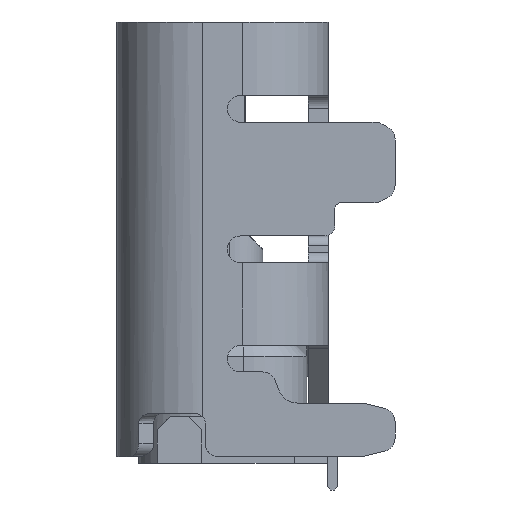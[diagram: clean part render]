
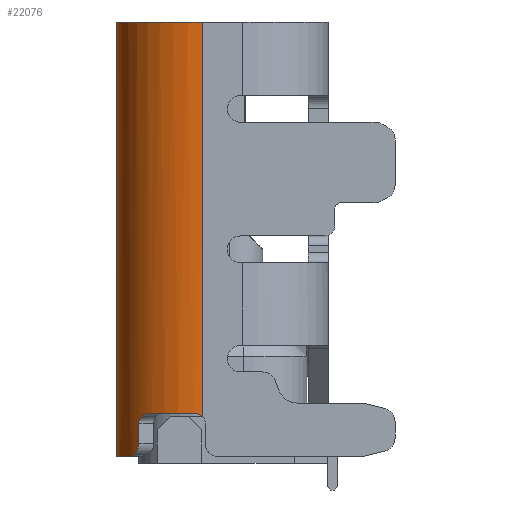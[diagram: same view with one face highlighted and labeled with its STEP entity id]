
A CAD part, left-side view. The second image highlights one B-rep face of the part: STEP entity #22076.
In plain terms, the highlighted cylindrical face has radius 1.28 mm (diameter 2.56 mm), a partial arc.
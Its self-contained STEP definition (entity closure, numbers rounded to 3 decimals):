
#2152=CARTESIAN_POINT('',(-3.19,0.3,4.8));
#2153=DIRECTION('',(0.,0.,-1.));
#2154=DIRECTION('',(-1.,0.,0.));
#2155=AXIS2_PLACEMENT_3D('',#2152,#2153,#2154);
#2487=DIRECTION('',(0.,0.,1.));
#2488=VECTOR('',#2487,6.5);
#2489=CARTESIAN_POINT('',(-3.19,1.58,-1.7));
#2490=LINE('',#2489,#2488);
#6156=CARTESIAN_POINT('',(-3.885,1.375,-1.7));
#6157=CARTESIAN_POINT('',(-3.897,1.367,-1.7));
#6158=CARTESIAN_POINT('',(-3.922,1.351,
-1.697));
#6159=CARTESIAN_POINT('',(-3.957,1.325,
-1.682));
#6160=CARTESIAN_POINT('',(-3.988,1.301,
-1.657));
#6161=CARTESIAN_POINT('',(-4.012,1.282,
-1.626));
#6162=CARTESIAN_POINT('',(-4.03,1.266,
-1.588));
#6163=CARTESIAN_POINT('',(-4.042,1.256,
-1.544));
#6164=CARTESIAN_POINT('',(-4.044,1.253,
-1.515));
#6165=CARTESIAN_POINT('',(-4.044,1.253,-1.5));
#6167=DIRECTION('',(0.,0.,1.));
#6168=VECTOR('',#6167,5.898);
#6169=CARTESIAN_POINT('',(-4.47,0.3,-1.098));
#6170=LINE('',#6169,#6168);
#6171=CARTESIAN_POINT('',(-4.47,0.3,-1.098));
#6172=CARTESIAN_POINT('',(-4.47,0.309,-1.091));
#6173=CARTESIAN_POINT('',(-4.47,0.329,
-1.077));
#6174=CARTESIAN_POINT('',(-4.469,0.365,
-1.062));
#6175=CARTESIAN_POINT('',(-4.466,0.404,
-1.052));
#6176=CARTESIAN_POINT('',(-4.463,0.43,-1.05));
#6177=CARTESIAN_POINT('',(-4.462,0.444,-1.05));
#6179=CARTESIAN_POINT('',(-3.19,0.3,-1.05));
#6180=DIRECTION('',(0.,0.,1.));
#6181=DIRECTION('',(-0.806,0.592,0.));
#6182=AXIS2_PLACEMENT_3D('',#6179,#6180,#6181);
#6184=CARTESIAN_POINT('',(-4.222,1.058,-1.05));
#6185=CARTESIAN_POINT('',(-4.209,1.075,-1.05));
#6186=CARTESIAN_POINT('',(-4.183,1.108,
-1.053));
#6187=CARTESIAN_POINT('',(-4.144,1.154,
-1.068));
#6188=CARTESIAN_POINT('',(-4.11,1.191,
-1.088));
#6189=CARTESIAN_POINT('',(-4.081,1.219,
-1.113));
#6190=CARTESIAN_POINT('',(-4.059,1.24,
-1.142));
#6191=CARTESIAN_POINT('',(-4.047,1.251,
-1.171));
#6192=CARTESIAN_POINT('',(-4.044,1.253,
-1.19));
#6193=CARTESIAN_POINT('',(-4.044,1.253,-1.2));
#6195=DIRECTION('',(0.,0.,1.));
#6196=VECTOR('',#6195,0.3);
#6197=CARTESIAN_POINT('',(-4.044,1.253,-1.5));
#6198=LINE('',#6197,#6196);
#6218=CARTESIAN_POINT('',(-3.19,0.3,-1.7));
#6219=DIRECTION('',(0.,0.,-1.));
#6220=DIRECTION('',(-0.543,0.84,0.));
#6221=AXIS2_PLACEMENT_3D('',#6218,#6219,#6220);
#9015=CARTESIAN_POINT('',(-3.19,1.58,4.8));
#9017=VERTEX_POINT('',#9015);
#9029=CARTESIAN_POINT('',(-4.47,0.3,4.8));
#9030=VERTEX_POINT('',#9029);
#9031=CARTESIAN_POINT('',(-3.19,1.58,-1.7));
#9032=VERTEX_POINT('',#9031);
#9790=CARTESIAN_POINT('',(-4.47,0.3,-1.098));
#9792=VERTEX_POINT('',#9790);
#9794=CARTESIAN_POINT('',(-4.222,1.058,-1.05));
#9795=CARTESIAN_POINT('',(-4.462,0.444,-1.05));
#9796=VERTEX_POINT('',#9794);
#9797=VERTEX_POINT('',#9795);
#9798=VERTEX_POINT('',#6193);
#9809=VERTEX_POINT('',#6156);
#9810=VERTEX_POINT('',#6165);
#22053=CARTESIAN_POINT('',(-3.19,0.3,-1.7));
#22054=DIRECTION('',(0.,0.,1.));
#22055=DIRECTION('',(1.,0.,0.));
#22056=AXIS2_PLACEMENT_3D('',#22053,#22054,#22055);
#22057=CYLINDRICAL_SURFACE('',#22056,1.28);
#22059=ORIENTED_EDGE('',*,*,#22058,.F.);
#22061=ORIENTED_EDGE('',*,*,#22060,.T.);
#22062=ORIENTED_EDGE('',*,*,#14375,.T.);
#22063=ORIENTED_EDGE('',*,*,#13934,.F.);
#22065=ORIENTED_EDGE('',*,*,#22064,.F.);
#22067=ORIENTED_EDGE('',*,*,#22066,.T.);
#22069=ORIENTED_EDGE('',*,*,#22068,.F.);
#22071=ORIENTED_EDGE('',*,*,#22070,.T.);
#22073=ORIENTED_EDGE('',*,*,#22072,.F.);
#22074=EDGE_LOOP('',(#22059,#22061,#22062,#22063,#22065,#22067,#22069,#22071,
#22073));
#22075=FACE_OUTER_BOUND('',#22074,.F.);
#2156=CIRCLE('',#2155,1.28);
#6166=B_SPLINE_CURVE_WITH_KNOTS('',3,(#6156,#6157,#6158,#6159,#6160,#6161,#6162,
#6163,#6164,#6165),.UNSPECIFIED.,.F.,.F.,(4,1,1,1,1,1,1,4),(0.,
0.143,0.286,0.429,0.571,
0.714,0.857,1.),.UNSPECIFIED.);
#6178=B_SPLINE_CURVE_WITH_KNOTS('',3,(#6171,#6172,#6173,#6174,#6175,#6176,
#6177),.UNSPECIFIED.,.F.,.F.,(4,1,1,1,4),(0.,0.25,0.5,0.75,1.),
.UNSPECIFIED.);
#6183=CIRCLE('',#6182,1.28);
#6194=B_SPLINE_CURVE_WITH_KNOTS('',3,(#6184,#6185,#6186,#6187,#6188,#6189,#6190,
#6191,#6192,#6193),.UNSPECIFIED.,.F.,.F.,(4,1,1,1,1,1,1,4),(0.,
0.143,0.286,0.429,0.571,
0.714,0.857,1.),.UNSPECIFIED.);
#6222=CIRCLE('',#6221,1.28);
#13934=EDGE_CURVE('',#9030,#9017,#2156,.T.);
#14375=EDGE_CURVE('',#9032,#9017,#2490,.T.);
#22058=EDGE_CURVE('',#9809,#9810,#6166,.T.);
#22060=EDGE_CURVE('',#9809,#9032,#6222,.T.);
#22064=EDGE_CURVE('',#9792,#9030,#6170,.T.);
#22066=EDGE_CURVE('',#9792,#9797,#6178,.T.);
#22068=EDGE_CURVE('',#9796,#9797,#6183,.T.);
#22070=EDGE_CURVE('',#9796,#9798,#6194,.T.);
#22072=EDGE_CURVE('',#9810,#9798,#6198,.T.);
#22076=ADVANCED_FACE('',(#22075),#22057,.T.);
